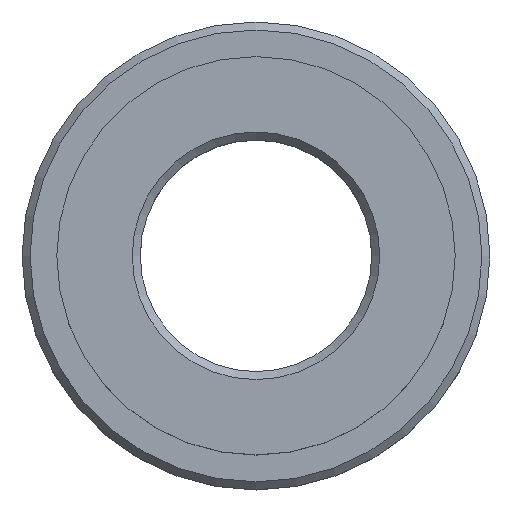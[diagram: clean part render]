
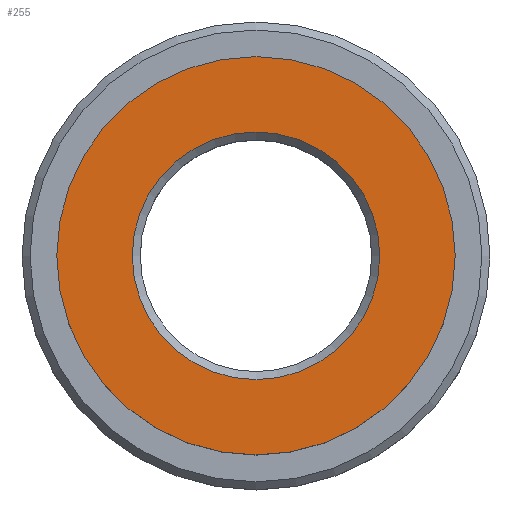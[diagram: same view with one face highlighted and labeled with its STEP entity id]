
A CAD part, top view. The second image highlights one B-rep face of the part: STEP entity #255.
In plain terms, the highlighted planar face has unit normal (0, 0, 1).
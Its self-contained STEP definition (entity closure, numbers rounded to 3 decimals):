
#224=CARTESIAN_POINT('',(4.63,0.,6.));
#225=VERTEX_POINT('',#224);
#226=CARTESIAN_POINT('',(0.0,0.0,6.));
#227=DIRECTION('',(0.0,0.0,1.0));
#228=DIRECTION('',(-1.0,0.0,0.0));
#229=AXIS2_PLACEMENT_3D('',#226,#227,#228);
#230=CIRCLE('',#229,4.63);
#231=EDGE_CURVE('',#225,#225,#230,.T.);
#236=CARTESIAN_POINT('',(0.0,0.0,6.));
#237=DIRECTION('',(0.0,0.0,-1.0));
#238=DIRECTION('',(-1.0,0.0,0.0));
#239=AXIS2_PLACEMENT_3D('',#236,#237,#238);
#240=PLANE('',#239);
#241=CARTESIAN_POINT('',(7.45,0.,6.));
#242=VERTEX_POINT('',#241);
#243=CARTESIAN_POINT('',(0.0,0.0,6.));
#244=DIRECTION('',(0.0,0.0,-1.0));
#245=DIRECTION('',(-1.0,0.0,0.0));
#246=AXIS2_PLACEMENT_3D('',#243,#244,#245);
#247=CIRCLE('',#246,7.45);
#248=EDGE_CURVE('',#242,#242,#247,.T.);
#249=ORIENTED_EDGE('',*,*,#248,.F.);
#250=EDGE_LOOP('',(#249));
#251=FACE_OUTER_BOUND('',#250,.T.);
#252=ORIENTED_EDGE('',*,*,#231,.F.);
#253=EDGE_LOOP('',(#252));
#254=FACE_BOUND('',#253,.T.);
#255=ADVANCED_FACE('',(#251,#254),#240,.F.);
